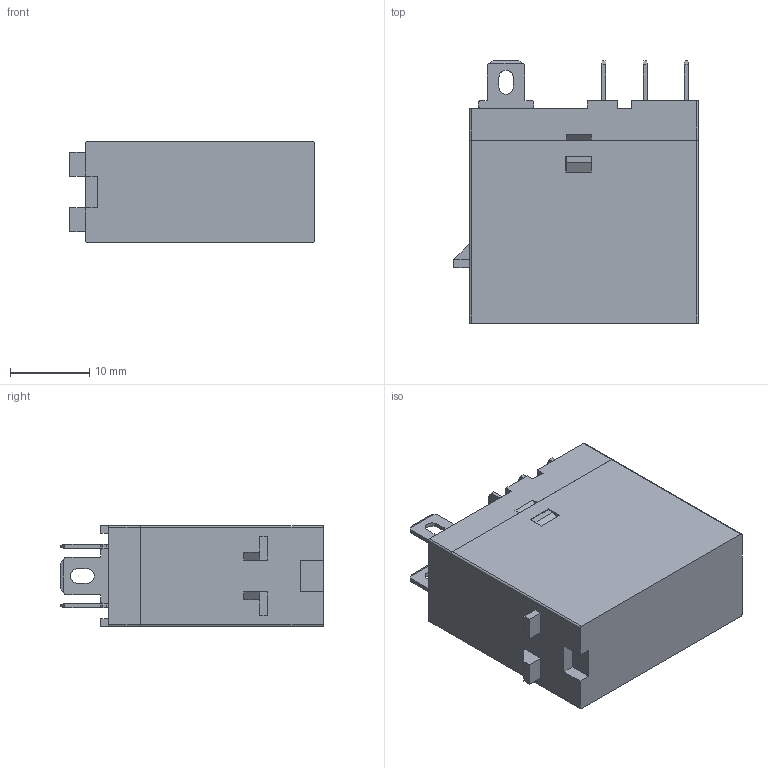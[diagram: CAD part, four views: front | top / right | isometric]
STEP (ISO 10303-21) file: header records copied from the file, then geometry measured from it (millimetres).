
FILE_DESCRIPTION (( 'STEP AP203' ), '1' );
FILE_NAME ('69K1Z.STEP', '2019-03-14T03:05:32', ( 'XiaZaiMa.COM' ), ( 'Win10NeT.COM' ), 'SwSTEP 2.0', 'SolidWorks 2014', '' );
FILE_SCHEMA (( 'CONFIG_CONTROL_DESIGN' ));
Length unit declared in the file: millimetre
Products named in the file (21): 揤銅えㄗ載蜊綴ㄘ; 1Z线圈架-DC; 1Z奻噙銅; 裔啣 ; 沺郋-DC; 1Z諉盄え; 1Z芢雄殤; 1Z雄銅え - a; 69K1Z; 1Z雄銅え - b; 1Z酘竘盄褐-蚾饜; 1Z穩綴雄揖萸; 1Z衵竘盄褐-蚾饜; 濎沺; 1Z價釱; 盄婁; 玴沺; 1Z狟噙銅; 1Z俋褲; 揤銅え; 1Z噙揖萸
Assembly tree (20 placements, depth 2):
  裔啣 
  69K1Z
    1Z價釱
    1Z狟噙銅
    1Z噙揖萸  x2
    1Z奻噙銅
    1Z諉盄え
    1Z雄銅え - a
    1Z雄銅え - b
    1Z穩綴雄揖萸
    濎沺
    玴沺
    揤銅え
    1Z线圈架-DC
    沺郋-DC
    1Z酘竘盄褐-蚾饜
    1Z衵竘盄褐-蚾饜
    盄婁
    1Z俋褲
    揤銅えㄗ載蜊綴ㄘ
    1Z芢雄殤
Bounding box: 30.8 x 33 x 12.7 mm (x, y, z)
Volume: 5754.3 mm3; surface area: 13540.9 mm2
Topology: 20 solids, 20 shells, 1318 faces, 3584 edges, 2346 vertices
Faces by surface type: plane 1020, cylinder 248, torus 21, bspline 15, cone 10, sphere 4
Entity records: 44898 total; most frequent: CARTESIAN_POINT 9200, ORIENTED_EDGE 7136, DIRECTION 6635, EDGE_CURVE 3568, VECTOR 2991, LINE 2991, VERTEX_POINT 2336, AXIS2_PLACEMENT_3D 1822
